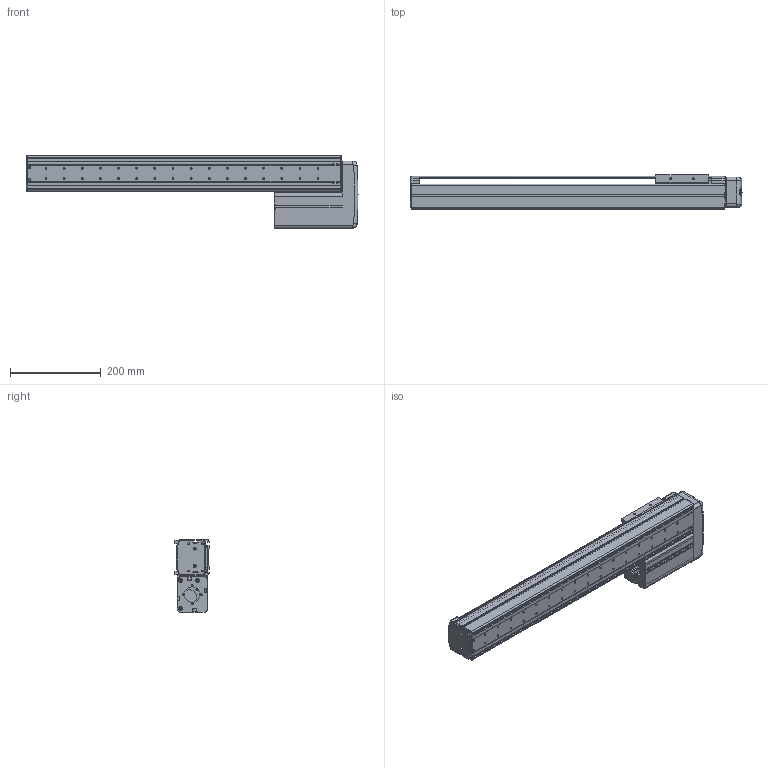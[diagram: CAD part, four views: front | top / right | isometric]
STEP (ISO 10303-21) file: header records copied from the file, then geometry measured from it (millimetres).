
FILE_DESCRIPTION((''),'2;1');
FILE_NAME('BE10E-UL-M_N-50_IGS_PRT','2017-06-17T',(' '),(''),'PRO/ENGINEER BY PARAMETRIC TECHNOLOGY CORPORATION, 2015030','PRO/ENGINEER BY PARAMETRIC TECHNOLOGY CORPORATION, 2015030','');
FILE_SCHEMA(('CONFIG_CONTROL_DESIGN'));
Length unit declared in the file: millimetre
Products named in the file (1): BE10E-UL-M_N-50_IGS_PRT
Bounding box: 732 x 75 x 160 mm (x, y, z)
Volume: 1145809.6 mm3; surface area: 783423.3 mm2
Topology: 2 solids, 109 shells, 1773 faces, 4782 edges, 3106 vertices
Faces by surface type: cylinder 841, plane 704, cone 81, torus 71, sphere 44, bspline 32
Entity records: 57908 total; most frequent: CARTESIAN_POINT 12232, DIRECTION 9914, ORIENTED_EDGE 9086, EDGE_CURVE 4746, AXIS2_PLACEMENT_3D 3698, VERTEX_POINT 3106, VECTOR 2518, LINE 2518
